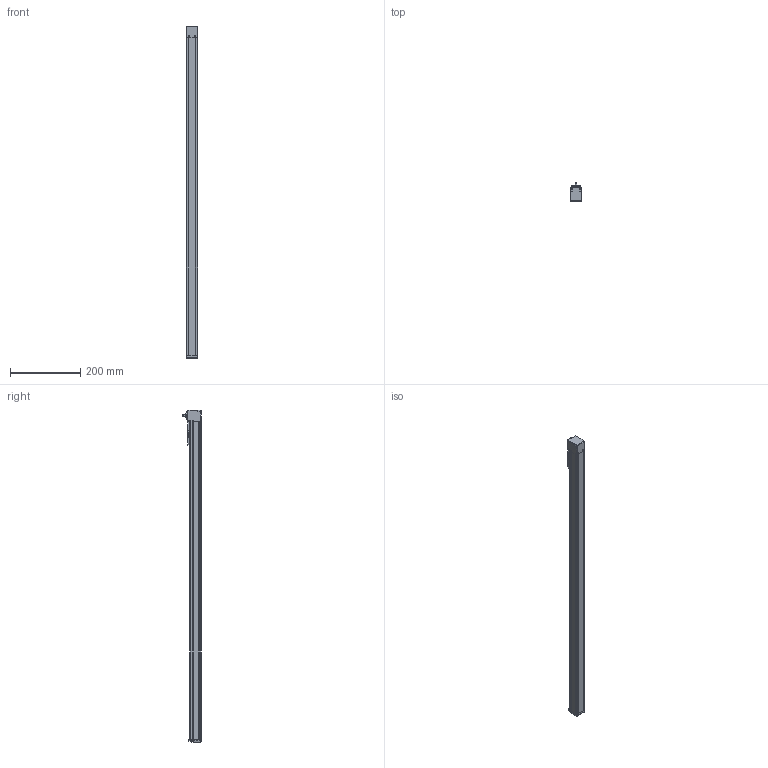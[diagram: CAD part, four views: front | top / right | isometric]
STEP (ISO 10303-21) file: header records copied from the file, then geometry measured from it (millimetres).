
FILE_DESCRIPTION(/* description */ ('STEP AP214'),/* implementation_level */ '2;1');
FILE_NAME(/* name */ 'MGTB 32 800(0)',/* time_stamp */ '2023-04-17T13:35:01+02:00',/* author */ ('License CC BY-ND 4.0'),/* organization */ ('CADENAS'),/* preprocessor_version */ 'ST-DEVELOPER v19.3',/* originating_system */ 'PARTsolutions',/* authorisation */ ' ');
FILE_SCHEMA (('AUTOMOTIVE_DESIGN {1 0 10303 214 3 1 1}'));
Length unit declared in the file: millimetre
Products named in the file (6): MGTB 32 800(0); MGTB 32 800_protection_strip; MGTB 32_carriage; MGTB 32_end_block; MGTB 32 800_profile; MGTB 32_drive_block
Assembly tree (5 placements, depth 2):
  MGTB 32 800(0)
    MGTB 32 800_protection_strip
    MGTB 32_carriage
    MGTB 32_end_block
    MGTB 32 800_profile
    MGTB 32_drive_block
Bounding box: 32 x 51.75 x 944.75 mm (x, y, z)
Volume: 894447.3 mm3; surface area: 214048.5 mm2
Topology: 5 solids, 5 shells, 664 faces, 1755 edges, 1129 vertices
Faces by surface type: plane 316, cylinder 171, cone 90, bspline 60, torus 25, sphere 2
Full cylindrical faces by diameter (mm): 1.155 x1, 1.567 x4, 1.755 x4, 1.8 x2, 2 x2, 2.3 x4, 2.459 x8, 2.46 x4, 2.5 x11, 3 x1, 3.8 x4, 4.5 x4, 5 x3, 7 x1, 7.5 x1, 9.6 x1, 19.5 x1, 25 x2
Entity records: 24513 total; most frequent: CARTESIAN_POINT 4239, DIRECTION 3359, ORIENTED_EDGE 3170, EDGE_CURVE 1585, AXIS2_PLACEMENT_3D 1204, VERTEX_POINT 1116, LINE 951, VECTOR 951
